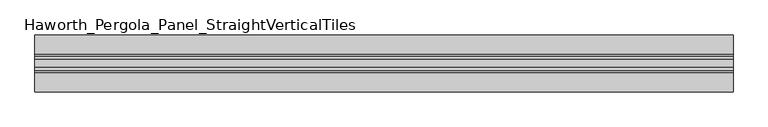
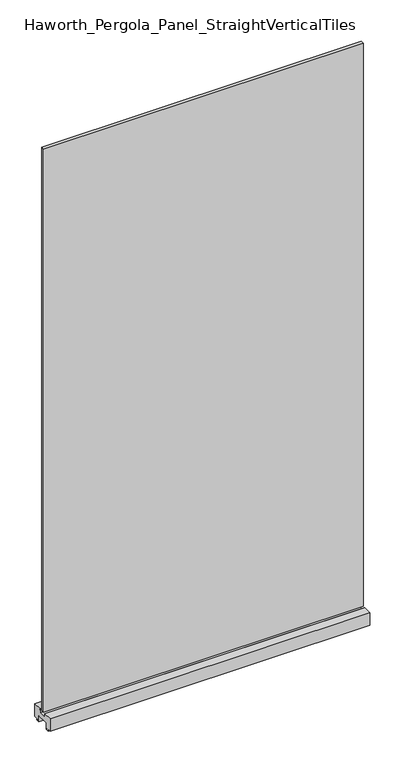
"""IFC4 building model written with IfcOpenShell, lengths in millimetres: furniture geometry, Haworth_Pergola_Panel_StraightVerticalTiles : Vertical Tiles - 96h 48w - (48w)."""

import ifcopenshell
import ifcopenshell.guid

model = None  # the IFC model being written
_history = None  # IfcOwnerHistory: only IFC2X3 demands one
_inside = {}  # id of a spatial element -> (the spatial element, [elements in it])
_under = {}  # id of a project, library or spatial element -> (it, [spatial elements below it])
_declared = {}  # id of a project -> (the project, [libraries it declares])
_typed = {}  # id of a type object -> (the type object, [elements of that type])
_made_of = {}  # id of a material, layer set ... -> (it, [elements and type objects made of it])


def new_model(schema):
    """Start an empty IFC model of exactly this schema.

    Asked for "IFC4X3", IfcOpenShell would pick the latest addendum, in which some entities
    have other attributes; the version numbers below select the first issue.
    IFC2X3 requires an IfcOwnerHistory on every rooted entity: one is made here for all.
    """
    global model, _history
    if schema == "IFC4X3":
        model = ifcopenshell.file(schema_version=(4, 3, 0, 0))
    else:
        model = ifcopenshell.file(schema=schema)
    _inside.clear()
    _under.clear()
    _declared.clear()
    _typed.clear()
    _made_of.clear()
    _history = None
    if model.schema == "IFC2X3":
        org = make("IfcOrganization", Name="unknown")
        user = make(
            "IfcPersonAndOrganization",
            ThePerson=make("IfcPerson", FamilyName="unknown"),
            TheOrganization=org,
        )
        app = make(
            "IfcApplication",
            ApplicationDeveloper=org,
            Version="unknown",
            ApplicationFullName="unknown",
            ApplicationIdentifier="unknown",
        )
        _history = make(
            "IfcOwnerHistory",
            OwningUser=user,
            OwningApplication=app,
            ChangeAction="ADDED",
            CreationDate=0,
        )
    return model


def make(cls, **values):
    """One entity of the class cls with the attributes given. An attribute that is None is left unset."""
    return model.create_entity(
        cls, **{name: value for name, value in values.items() if value is not None}
    )


def rooted(cls, **values):
    """An entity with a GlobalId (a new one), such as an element, a storey or a relation."""
    return make(cls, GlobalId=ifcopenshell.guid.new(), OwnerHistory=_history, **values)


def si_unit(unit_type, name, prefix=None):
    """IfcSIUnit, for example si_unit("LENGTHUNIT", "METRE", prefix="MILLI")."""
    return make("IfcSIUnit", UnitType=unit_type, Prefix=prefix, Name=name)


def assignment(units):
    """IfcUnitAssignment: the units of a project."""
    return None if units is None else make("IfcUnitAssignment", Units=units)


def point(xyz):
    """IfcCartesianPoint."""
    return None if xyz is None else make("IfcCartesianPoint", Coordinates=xyz)


def direction(xyz):
    """IfcDirection."""
    return None if xyz is None else make("IfcDirection", DirectionRatios=xyz)


def frame(location, z_axis=None, x_axis=None):
    """IfcAxis2Placement3D, a coordinate frame: its origin and axes. An axis left out is left unset."""
    return make(
        "IfcAxis2Placement3D",
        Location=point(location),
        Axis=direction(z_axis),
        RefDirection=direction(x_axis),
    )


def origin():
    """The frame at (0, 0, 0) with its axes left unset."""
    return frame((0.0, 0.0, 0.0))


def place(relative_to, where):
    """IfcLocalPlacement: puts the frame where relative to a parent placement (None: the world)."""
    return make(
        "IfcLocalPlacement", PlacementRelTo=relative_to, RelativePlacement=where
    )


def context(
    kind, dimensions, precision=None, world=None, true_north=None, identifier=None
):
    """IfcGeometricRepresentationContext, for example the 3D "Model" context."""
    return make(
        "IfcGeometricRepresentationContext",
        ContextIdentifier=identifier,
        ContextType=kind,
        CoordinateSpaceDimension=dimensions,
        Precision=precision,
        WorldCoordinateSystem=world,
        TrueNorth=true_north,
    )


def project(units=None, contexts=None):
    """IfcProject with its units and contexts."""
    return rooted(
        "IfcProject",
        Name="project",
        RepresentationContexts=contexts,
        UnitsInContext=assignment(units),
    )


def spatial(cls, under=None, at=None, **own):
    """A site, building, storey or space (cls), placed at a placement, below another one or the project."""
    s = rooted(cls, ObjectPlacement=at, **own)
    if under is not None:
        _under.setdefault(under.id(), (under, []))[1].append(s)
    return s


def polyline(points):
    """IfcPolyline through the points."""
    return make("IfcPolyline", Points=[point(p) for p in points])


def outline(outer, holes=None, kind="AREA"):
    """IfcArbitraryClosedProfileDef: a profile drawn as a closed curve; with holes, ...WithVoids."""
    if holes is None:
        return make("IfcArbitraryClosedProfileDef", ProfileType=kind, OuterCurve=outer)
    return make(
        "IfcArbitraryProfileDefWithVoids",
        ProfileType=kind,
        OuterCurve=outer,
        InnerCurves=holes,
    )


def extrude(swept, where, along, depth):
    """IfcExtrudedAreaSolid: the profile swept, set in the frame where, extruded along a direction by depth."""
    return make(
        "IfcExtrudedAreaSolid",
        SweptArea=swept,
        Position=where,
        ExtrudedDirection=direction(along),
        Depth=depth,
    )


def shape(context_of_items, identifier, shape_type, items):
    """IfcShapeRepresentation: the items that make up one representation, for example the "Body"."""
    return make(
        "IfcShapeRepresentation",
        ContextOfItems=context_of_items,
        RepresentationIdentifier=identifier,
        RepresentationType=shape_type,
        Items=items,
    )


def source(mapping_origin, context_of_items, identifier, shape_type, items):
    """IfcRepresentationMap: a shape defined once, which mapped items show again and again."""
    return make(
        "IfcRepresentationMap",
        MappingOrigin=mapping_origin,
        MappedRepresentation=shape(context_of_items, identifier, shape_type, items),
    )


def transform(
    local_origin,
    x_axis=None,
    y_axis=None,
    z_axis=None,
    scale=None,
    scale2=None,
    scale3=None,
    uniform=True,
):
    """IfcCartesianTransformationOperator3D, or its non-uniform kind. x_axis, y_axis, z_axis: its Axis1, 2, 3."""
    if uniform:
        return make(
            "IfcCartesianTransformationOperator3D",
            Axis1=direction(x_axis),
            Axis2=direction(y_axis),
            LocalOrigin=point(local_origin),
            Scale=scale,
            Axis3=direction(z_axis),
        )
    return make(
        "IfcCartesianTransformationOperator3DnonUniform",
        Axis1=direction(x_axis),
        Axis2=direction(y_axis),
        LocalOrigin=point(local_origin),
        Scale=scale,
        Axis3=direction(z_axis),
        Scale2=scale2,
        Scale3=scale3,
    )


def mapped(mapping_source, mapping_target):
    """IfcMappedItem: shows the shape of a source again, moved by a transform."""
    return make(
        "IfcMappedItem", MappingSource=mapping_source, MappingTarget=mapping_target
    )


def made_of(thing, what):
    """Note that an element or type object is made of a material, layer set ...; save() writes the relation."""
    if what is not None:
        _made_of.setdefault(what.id(), (what, []))[1].append(thing)
    return thing


def element(
    cls,
    number,
    at=None,
    inside=None,
    cuts=None,
    type_object=None,
    material=None,
    context=None,
    identifier="Body",
    shape_type=None,
    held_by="IfcProductDefinitionShape",
    body=None,
    shapes=None,
    **own,
):
    """One element of the class cls, such as IfcWall. Its Tag is "e" and its number.

    at: its placement. inside: the storey or other place that contains it. cuts: it is an
    opening in that element (IfcRelVoidsElement). A single representation is given by context,
    identifier, shape_type and body (its items); several are given by shapes. held_by: the class
    of the entity that holds the representations. save() writes the other relations.
    """
    e = rooted(cls, Tag="e%d" % number, ObjectPlacement=at, **own)
    if body is not None:
        shapes = [shape(context, identifier, shape_type, body)]
    if shapes is not None:
        e.Representation = make(held_by, Representations=shapes)
    if inside is not None:
        _inside.setdefault(inside.id(), (inside, []))[1].append(e)
    if cuts is not None:
        rooted(
            "IfcRelVoidsElement", RelatingBuildingElement=cuts, RelatedOpeningElement=e
        )
    if type_object is not None:
        _typed.setdefault(type_object.id(), (type_object, []))[1].append(e)
    return made_of(e, material)


def aggregate(whole, parts):
    """IfcRelAggregates: a whole, such as a stair, and the parts it consists of."""
    return rooted("IfcRelAggregates", RelatingObject=whole, RelatedObjects=parts)


def save(model, path):
    """Write the relations noted so far, then the file.

    IfcRelAggregates (storeys below a building ...), IfcRelContainedInSpatialStructure (elements
    in a storey), IfcRelDefinesByType, IfcRelAssociatesMaterial and IfcRelDeclares: one each for
    every whole, place, type object, material and project.
    """
    for whole, parts in _under.values():
        aggregate(whole, parts)
    for where, things in _inside.values():
        rooted(
            "IfcRelContainedInSpatialStructure",
            RelatedElements=things,
            RelatingStructure=where,
        )
    for kind, things in _typed.values():
        rooted("IfcRelDefinesByType", RelatedObjects=things, RelatingType=kind)
    for what, things in _made_of.values():
        rooted("IfcRelAssociatesMaterial", RelatedObjects=things, RelatingMaterial=what)
    for by, libraries in _declared.values():
        rooted("IfcRelDeclares", RelatingContext=by, RelatedDefinitions=libraries)
    model.write(path)


def haworth_pergola_panel_straightverticaltiles_25d91abf(model_context):
    return source(origin(), model_context, "Body", "SweptSolid", [
        extrude(outline(polyline([(-571.5, -6.35), (-571.5, 6.35), (647.7, 6.35), (647.7, -6.35), (-571.5, -6.35)])), frame((0.0, 0.0, 63.5), z_axis=(0.0, 0.0, 1.0), x_axis=(1.0, 0.0, 0.0)), (0.0, 0.0, 1.0), 2268.3390625),
        extrude(outline(polyline([(16.2000002, 63.5), (50.0000003, 63.5), (50.0000003, 12.6999985), (40.9499986, 12.6999985), (38.949998, 10.6999979), (28.9499998, 10.6999979), (28.9499998, 7.6999994), (38.949998, 7.6999994), (38.949998, 5.6999988), (23.7499992, 5.6999988), (23.7499992, 31.4500009), (-23.7499993, 31.4500009), (-23.7499993, 5.6999988), (-38.9499981, 5.6999988), (-38.9499981, 7.6999994), (-28.9499999, 7.6999994), (-28.9499999, 10.6999979), (-38.9499981, 10.6999979), (-40.9499987, 12.6999985), (-50.0000004, 12.6999985), (-50.0000004, 63.5), (-16.2000003, 63.5), (-16.5085718, 61.7499999), (-13.3999997, 61.7499999), (-13.3999997, 58.8973461), (-15.4000003, 59.2499999), (-15.4000003, 48.3500004), (15.4000002, 48.3500004), (15.4000002, 59.2499999), (13.3999996, 58.8973461), (13.3999996, 61.7499999), (16.5085717, 61.7499999), (16.2000002, 63.5)])), frame((-571.5, 0.0, 0.0), z_axis=(1.0, 0.0, 0.0), x_axis=(0.0, 1.0, 0.0)), (0.0, 0.0, 1.0), 1219.2),
    ])


if __name__ == "__main__":
    model = new_model("IFC4")
    model_context = context("Model", 3, world=origin())
    ifc_project = project(units=[si_unit("LENGTHUNIT", "METRE", prefix="MILLI")], contexts=[model_context])
    site = spatial("IfcSite", under=ifc_project)
    building = spatial("IfcBuilding", under=site)
    placement = place(None, origin())
    haworth_pergola_panel_straightverticaltiles_shape = haworth_pergola_panel_straightverticaltiles_25d91abf(model_context)
    element("IfcFurniture", 1, ObjectType="Haworth_Pergola_Panel_StraightVerticalTiles : Vertical Tiles - 96h 48w - (48w)", at=placement, inside=building, context=model_context, shape_type="MappedRepresentation", body=[
        mapped(haworth_pergola_panel_straightverticaltiles_shape, transform((0.0, 0.0, 0.0), x_axis=(1.0, 0.0, 0.0), y_axis=(0.0, 1.0, 0.0), z_axis=(0.0, 0.0, 1.0))),
    ])
    save(model, "model.ifc")
